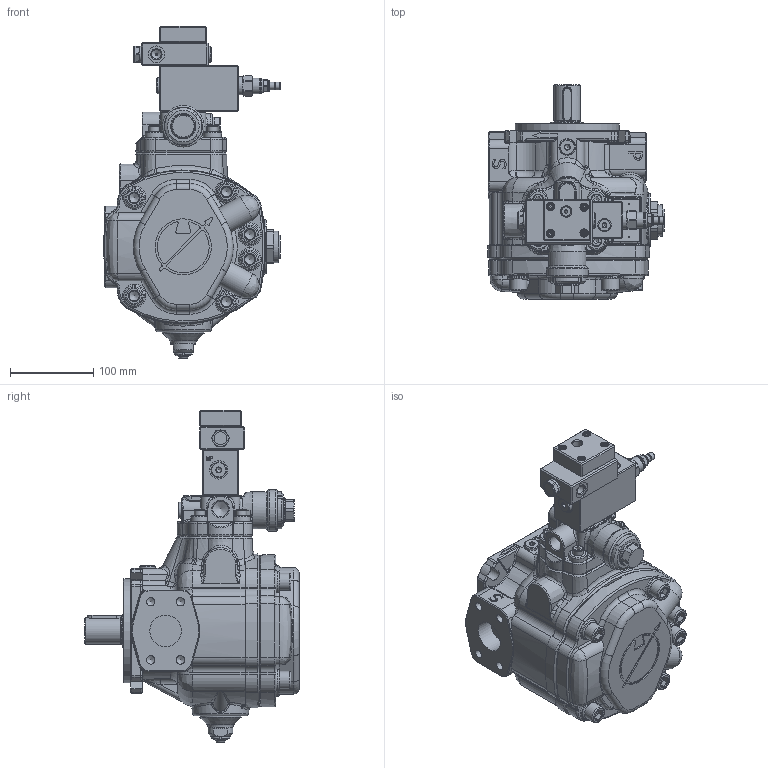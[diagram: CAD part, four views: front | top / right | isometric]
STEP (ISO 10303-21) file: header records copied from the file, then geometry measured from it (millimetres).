
FILE_DESCRIPTION(/* description */ (''),/* implementation_level */ '2;1');
FILE_NAME(/* name */ 'W:\Tecnico\Archivio\Berarma\Dimensioni Pompe\3D Export\Montaggio 3D semplificato\PLP-PHP 2\PHP 2 PCLS002.stp',/* time_stamp */ '2018-10-09T16:45:00+02:00',/* author */ ('marcop'),/* organization */ (''),/* preprocessor_version */ 'ST-DEVELOPER v17',/* originating_system */ 'Autodesk Inventor 2018',/* authorisation */ '');
FILE_SCHEMA (('AUTOMOTIVE_DESIGN { 1 0 10303 214 3 1 1 }'));
Products named in the file (1): PLP - PHP 2_Shrinkwrap_1
Bounding box: 212.33 x 257.5 x 399.1 mm (x, y, z)
Volume: 6103280.9 mm3; surface area: 352823.5 mm2
Topology: 1 solids, 1 shells, 2307 faces, 5986 edges, 3730 vertices
Faces by surface type: plane 938, cylinder 519, bspline 359, cone 241, torus 216, sphere 34
Full cylindrical faces by diameter (mm): 1.7 x4, 2.5 x3, 3 x1, 4 x5, 5 x7, 6 x3, 6.5 x1, 7.2 x13, 7.671 x2, 8 x1, 8.376 x4, 8.5 x4, 9 x4, 9.347 x2, 9.5 x1, 10 x1, 10.106 x4, 11.445 x5, 12 x3, 13 x4, 13.487 x1, 13.5 x1, 13.767 x2, 14 x2, 14.63 x1, 15.5 x2, 16 x2, 17.399 x1, 17.5 x1, 17.78 x1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
Entity records: 86053 total; most frequent: CARTESIAN_POINT 29544, ORIENTED_EDGE 11846, DIRECTION 10809, EDGE_CURVE 5923, AXIS2_PLACEMENT_3D 4186, VERTEX_POINT 3730, EDGE_LOOP 2495, LINE 2437
